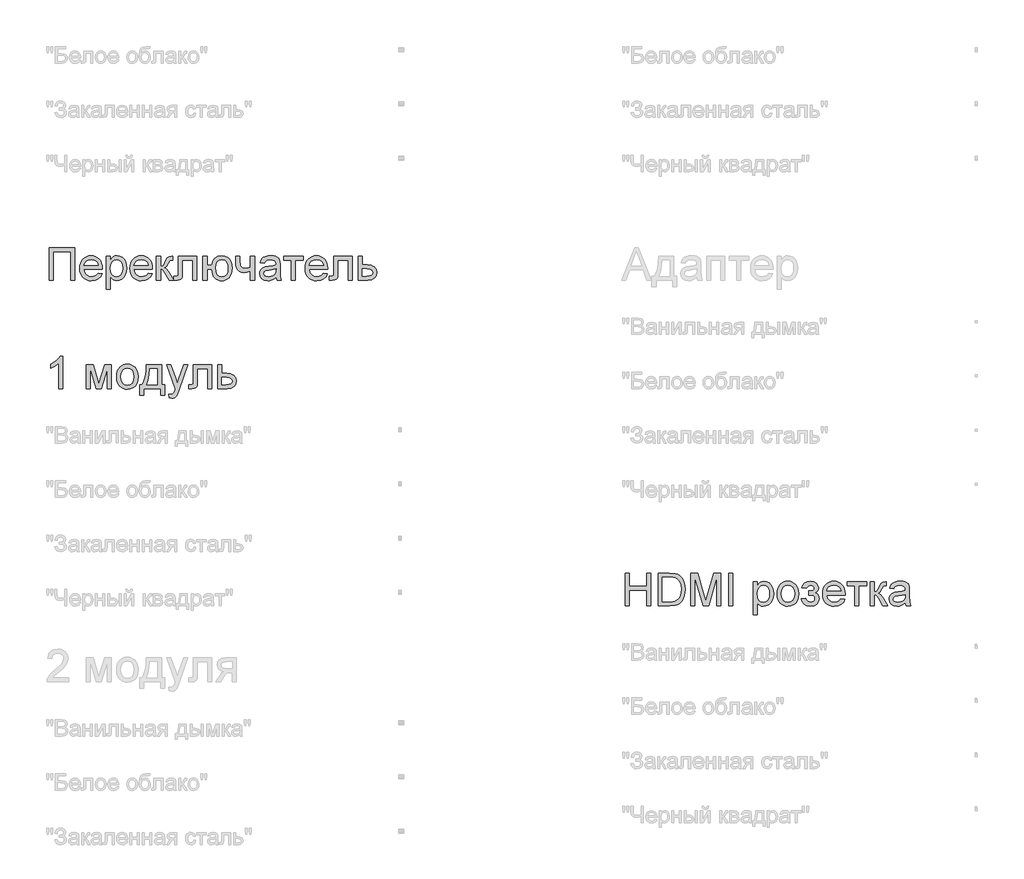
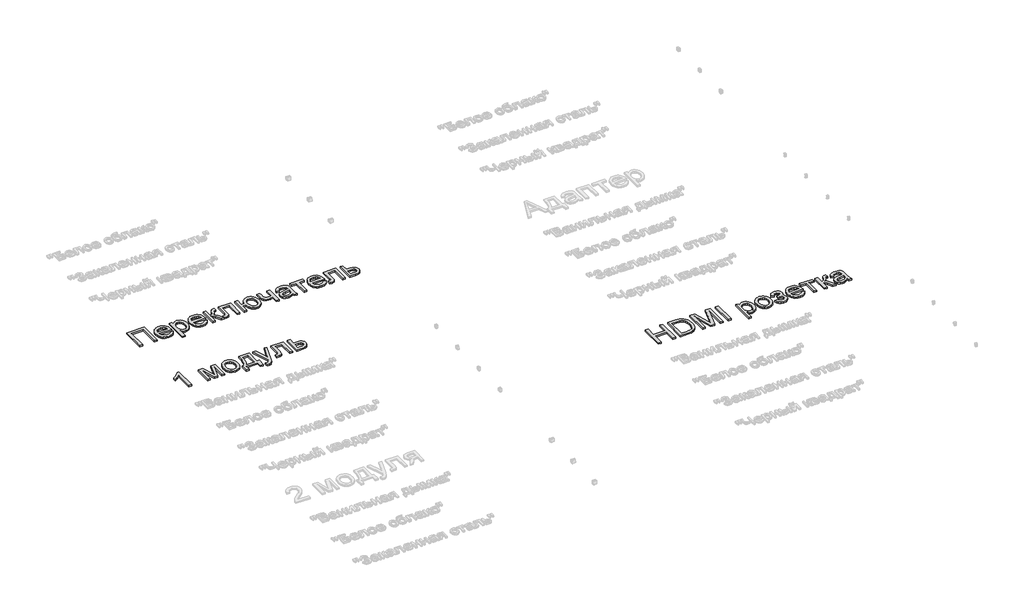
# One storey, part 56 of 168: 3 proxies.
"""IFC4 building model written with IfcOpenShell, lengths in millimetres."""

import ifcopenshell
import ifcopenshell.guid

model = None  # the IFC model being written
_history = None  # IfcOwnerHistory: only IFC2X3 demands one
_inside = {}  # id of a spatial element -> (the spatial element, [elements in it])
_under = {}  # id of a project, library or spatial element -> (it, [spatial elements below it])
_declared = {}  # id of a project -> (the project, [libraries it declares])
_typed = {}  # id of a type object -> (the type object, [elements of that type])
_made_of = {}  # id of a material, layer set ... -> (it, [elements and type objects made of it])


def new_model(schema):
    """Start an empty IFC model of exactly this schema.

    Asked for "IFC4X3", IfcOpenShell would pick the latest addendum, in which some entities
    have other attributes; the version numbers below select the first issue.
    IFC2X3 requires an IfcOwnerHistory on every rooted entity: one is made here for all.
    """
    global model, _history
    if schema == "IFC4X3":
        model = ifcopenshell.file(schema_version=(4, 3, 0, 0))
    else:
        model = ifcopenshell.file(schema=schema)
    _inside.clear()
    _under.clear()
    _declared.clear()
    _typed.clear()
    _made_of.clear()
    _history = None
    if model.schema == "IFC2X3":
        org = make("IfcOrganization", Name="unknown")
        user = make(
            "IfcPersonAndOrganization",
            ThePerson=make("IfcPerson", FamilyName="unknown"),
            TheOrganization=org,
        )
        app = make(
            "IfcApplication",
            ApplicationDeveloper=org,
            Version="unknown",
            ApplicationFullName="unknown",
            ApplicationIdentifier="unknown",
        )
        _history = make(
            "IfcOwnerHistory",
            OwningUser=user,
            OwningApplication=app,
            ChangeAction="ADDED",
            CreationDate=0,
        )
    return model


def make(cls, **values):
    """One entity of the class cls with the attributes given. An attribute that is None is left unset."""
    return model.create_entity(
        cls, **{name: value for name, value in values.items() if value is not None}
    )


def rooted(cls, **values):
    """An entity with a GlobalId (a new one), such as an element, a storey or a relation."""
    return make(cls, GlobalId=ifcopenshell.guid.new(), OwnerHistory=_history, **values)


def si_unit(unit_type, name, prefix=None):
    """IfcSIUnit, for example si_unit("LENGTHUNIT", "METRE", prefix="MILLI")."""
    return make("IfcSIUnit", UnitType=unit_type, Prefix=prefix, Name=name)


def assignment(units):
    """IfcUnitAssignment: the units of a project."""
    return None if units is None else make("IfcUnitAssignment", Units=units)


def point(xyz):
    """IfcCartesianPoint."""
    return None if xyz is None else make("IfcCartesianPoint", Coordinates=xyz)


def direction(xyz):
    """IfcDirection."""
    return None if xyz is None else make("IfcDirection", DirectionRatios=xyz)


def frame(location, z_axis=None, x_axis=None):
    """IfcAxis2Placement3D, a coordinate frame: its origin and axes. An axis left out is left unset."""
    return make(
        "IfcAxis2Placement3D",
        Location=point(location),
        Axis=direction(z_axis),
        RefDirection=direction(x_axis),
    )


def origin():
    """The frame at (0, 0, 0) with its axes left unset."""
    return frame((0.0, 0.0, 0.0))


def origin_with_axes():
    """The frame at (0, 0, 0) with the z axis (0, 0, 1) and the x axis (1, 0, 0) written out."""
    return frame((0.0, 0.0, 0.0), z_axis=(0.0, 0.0, 1.0), x_axis=(1.0, 0.0, 0.0))


def place(relative_to, where):
    """IfcLocalPlacement: puts the frame where relative to a parent placement (None: the world)."""
    return make(
        "IfcLocalPlacement", PlacementRelTo=relative_to, RelativePlacement=where
    )


def context(
    kind, dimensions, precision=None, world=None, true_north=None, identifier=None
):
    """IfcGeometricRepresentationContext, for example the 3D "Model" context."""
    return make(
        "IfcGeometricRepresentationContext",
        ContextIdentifier=identifier,
        ContextType=kind,
        CoordinateSpaceDimension=dimensions,
        Precision=precision,
        WorldCoordinateSystem=world,
        TrueNorth=true_north,
    )


def project(units=None, contexts=None):
    """IfcProject with its units and contexts."""
    return rooted(
        "IfcProject",
        Name="project",
        RepresentationContexts=contexts,
        UnitsInContext=assignment(units),
    )


def spatial(cls, under=None, at=None, **own):
    """A site, building, storey or space (cls), placed at a placement, below another one or the project."""
    s = rooted(cls, ObjectPlacement=at, **own)
    if under is not None:
        _under.setdefault(under.id(), (under, []))[1].append(s)
    return s


def polyline(points):
    """IfcPolyline through the points."""
    return make("IfcPolyline", Points=[point(p) for p in points])


def outline(outer, holes=None, kind="AREA"):
    """IfcArbitraryClosedProfileDef: a profile drawn as a closed curve; with holes, ...WithVoids."""
    if holes is None:
        return make("IfcArbitraryClosedProfileDef", ProfileType=kind, OuterCurve=outer)
    return make(
        "IfcArbitraryProfileDefWithVoids",
        ProfileType=kind,
        OuterCurve=outer,
        InnerCurves=holes,
    )


def extrude(swept, where, along, depth):
    """IfcExtrudedAreaSolid: the profile swept, set in the frame where, extruded along a direction by depth."""
    return make(
        "IfcExtrudedAreaSolid",
        SweptArea=swept,
        Position=where,
        ExtrudedDirection=direction(along),
        Depth=depth,
    )


def shape(context_of_items, identifier, shape_type, items):
    """IfcShapeRepresentation: the items that make up one representation, for example the "Body"."""
    return make(
        "IfcShapeRepresentation",
        ContextOfItems=context_of_items,
        RepresentationIdentifier=identifier,
        RepresentationType=shape_type,
        Items=items,
    )


def made_of(thing, what):
    """Note that an element or type object is made of a material, layer set ...; save() writes the relation."""
    if what is not None:
        _made_of.setdefault(what.id(), (what, []))[1].append(thing)
    return thing


def element(
    cls,
    number,
    at=None,
    inside=None,
    cuts=None,
    type_object=None,
    material=None,
    context=None,
    identifier="Body",
    shape_type=None,
    held_by="IfcProductDefinitionShape",
    body=None,
    shapes=None,
    **own,
):
    """One element of the class cls, such as IfcWall. Its Tag is "e" and its number.

    at: its placement. inside: the storey or other place that contains it. cuts: it is an
    opening in that element (IfcRelVoidsElement). A single representation is given by context,
    identifier, shape_type and body (its items); several are given by shapes. held_by: the class
    of the entity that holds the representations. save() writes the other relations.
    """
    e = rooted(cls, Tag="e%d" % number, ObjectPlacement=at, **own)
    if body is not None:
        shapes = [shape(context, identifier, shape_type, body)]
    if shapes is not None:
        e.Representation = make(held_by, Representations=shapes)
    if inside is not None:
        _inside.setdefault(inside.id(), (inside, []))[1].append(e)
    if cuts is not None:
        rooted(
            "IfcRelVoidsElement", RelatingBuildingElement=cuts, RelatedOpeningElement=e
        )
    if type_object is not None:
        _typed.setdefault(type_object.id(), (type_object, []))[1].append(e)
    return made_of(e, material)


def aggregate(whole, parts):
    """IfcRelAggregates: a whole, such as a stair, and the parts it consists of."""
    return rooted("IfcRelAggregates", RelatingObject=whole, RelatedObjects=parts)


def save(model, path):
    """Write the relations noted so far, then the file.

    IfcRelAggregates (storeys below a building ...), IfcRelContainedInSpatialStructure (elements
    in a storey), IfcRelDefinesByType, IfcRelAssociatesMaterial and IfcRelDeclares: one each for
    every whole, place, type object, material and project.
    """
    for whole, parts in _under.values():
        aggregate(whole, parts)
    for where, things in _inside.values():
        rooted(
            "IfcRelContainedInSpatialStructure",
            RelatedElements=things,
            RelatingStructure=where,
        )
    for kind, things in _typed.values():
        rooted("IfcRelDefinesByType", RelatedObjects=things, RelatingType=kind)
    for what, things in _made_of.values():
        rooted("IfcRelAssociatesMaterial", RelatedObjects=things, RelatingMaterial=what)
    for by, libraries in _declared.values():
        rooted("IfcRelDeclares", RelatingContext=by, RelatedDefinitions=libraries)
    model.write(path)


model = new_model("IFC4")

# Units and contexts
model_context = context("Model", 3, world=origin())
ifc_project = project(units=[si_unit("LENGTHUNIT", "METRE", prefix="MILLI")], contexts=[model_context])

# Site, building, storey
site = spatial("IfcSite", under=ifc_project)
building = spatial("IfcBuilding", under=site)
storey = spatial("IfcBuildingStorey", under=building, Name="Этаж 01", Elevation=0.0)

# Proxies
placement = place(None, origin())
element("IfcBuildingElementProxy", 1, Name="300 мм Arial 2", ObjectType="300 мм Arial 2", at=placement, inside=storey, context=model_context, shape_type="SweptSolid", body=[
    extrude(outline(polyline([(49099.0945017, -40265.4933673), (49334.5389786, -40265.4933673), (49334.5389786, -40566.8622977), (49296.8678623, -40566.8622977), (49296.8678623, -40303.1644836), (49136.765618, -40303.1644836), (49136.765618, -40566.8622977), (49099.0945017, -40566.8622977), (49099.0945017, -40265.4933673)])), origin_with_axes(), (0.0, 0.0, 1.0), 20.0),
    extrude(outline(polyline([(49550.7064389, -40500.9378442), (49587.6417913, -40505.6467337), (49574.3336601, -40533.4770067), (49553.0976719, -40554.2807335), (49524.4120733, -40567.2485738), (49488.7551109, -40571.5711873), (49465.3808087, -40569.7064854), (49444.5540892, -40564.1123798), (49426.2749526, -40554.7888705), (49410.5433988, -40541.7359575), (49397.8928567, -40525.3169242), (49388.8567552, -40505.8950541), (49383.4350943, -40483.4703472), (49381.627874, -40458.0428036), (49383.4534884, -40431.7530365), (49388.9303316, -40408.5810693), (49398.0584036, -40388.526902), (49410.8377044, -40371.5905347), (49426.5278715, -40358.1352507), (49444.3885423, -40348.5243336), (49464.419717, -40342.7577833), (49486.6213954, -40340.8355999), (49508.1080032, -40342.7531848), (49527.5390703, -40348.5059395), (49544.9145968, -40358.093864), (49560.2345826, -40371.5169583), (49572.7402712, -40388.4165374), (49581.6729059, -40408.4339165), (49587.0324867, -40431.5690955), (49588.8190136, -40457.8220744), (49588.5982844, -40467.9756174), (49419.2989903, -40467.9756174), (49425.8196986, -40496.1737724), (49440.9672398, -40516.9039228), (49462.8286273, -40529.6510339), (49489.4908749, -40533.900071), (49509.5404437, -40531.9319023), (49526.4262273, -40526.0273963), (49540.1482257, -40515.8186709), (49550.7064389, -40500.9378442)]), holes=[polyline([(49419.2989903, -40430.3045011), (49551.1478973, -40430.3045011), (49546.0527317, -40410.4020852), (49536.0647355, -40396.165052), (49514.1021804, -40382.9213001), (49486.4742426, -40378.5067162), (49461.0811879, -40382.0291863), (49440.084323, -40392.5965966), (49425.4886048, -40409.068513), (49419.2989903, -40430.3045011)])]), origin_with_axes(), (0.0, 0.0, 1.0), 20.0),
    extrude(outline(polyline([(49626.4901299, -40651.6223094), (49626.4901299, -40345.5444894), (49664.1612462, -40345.5444894), (49664.1612462, -40382.4798418), (49676.4485049, -40364.2604859), (49690.2072915, -40351.2466604), (49706.2469465, -40343.438365), (49725.3768102, -40340.8355999), (49750.8526384, -40344.4776316), (49773.1278932, -40355.4037269), (49791.2644756, -40372.9516981), (49804.3242864, -40396.4593576), (49812.2153552, -40424.2160541), (49814.8457115, -40454.5111364), (49811.8750644, -40486.7284021), (49802.963123, -40515.5427594), (49788.394996, -40539.4918773), (49768.4557919, -40557.1134249), (49745.2332409, -40567.9567467), (49720.8150735, -40571.5711873), (49703.4970286, -40569.1523632), (49688.0367877, -40561.8958908), (49674.802233, -40550.9422044), (49664.1612462, -40537.4317381), (49664.1612462, -40651.6223094), (49626.4901299, -40651.6223094)]), holes=[polyline([(49664.1612462, -40457.9692272), (49668.2355393, -40491.7407943), (49680.4584186, -40515.3588184), (49698.4938334, -40529.2647578), (49720.0057331, -40533.900071), (49741.8671207, -40529.0992109), (49760.362388, -40514.6966308), (49772.9715434, -40490.214084), (49777.1745952, -40455.173324), (49773.0727109, -40421.5856978), (49760.7670582, -40397.63658), (49742.7592345, -40383.2891821), (49721.5508375, -40378.5067162), (49700.259667, -40383.5926848), (49681.5620646, -40398.8505905), (49668.5114508, -40423.8021869), (49664.1612462, -40457.9692272)])]), origin_with_axes(), (0.0, 0.0, 1.0), 20.0),
    extrude(outline(polyline([(50012.1776137, -40500.9378442), (50049.112966, -40505.6467337), (50035.8048348, -40533.4770067), (50014.5688467, -40554.2807335), (49985.8832481, -40567.2485738), (49950.2262857, -40571.5711873), (49926.8519834, -40569.7064854), (49906.025264, -40564.1123798), (49887.7461273, -40554.7888705), (49872.0145735, -40541.7359575), (49859.3640314, -40525.3169242), (49850.3279299, -40505.8950541), (49844.906269, -40483.4703472), (49843.0990487, -40458.0428036), (49844.9246631, -40431.7530365), (49850.4015063, -40408.5810693), (49859.5295783, -40388.526902), (49872.3088791, -40371.5905347), (49887.9990462, -40358.1352507), (49905.8597171, -40348.5243336), (49925.8908917, -40342.7577833), (49948.0925701, -40340.8355999), (49969.5791779, -40342.7531848), (49989.010245, -40348.5059395), (50006.3857715, -40358.093864), (50021.7057574, -40371.5169583), (50034.2114459, -40388.4165374), (50043.1440806, -40408.4339165), (50048.5036614, -40431.5690955), (50050.2901884, -40457.8220744), (50050.0694592, -40467.9756174), (49880.770165, -40467.9756174), (49887.2908734, -40496.1737724), (49902.4384145, -40516.9039228), (49924.2998021, -40529.6510339), (49950.9620497, -40533.900071), (49971.0116184, -40531.9319023), (49987.897402, -40526.0273963), (50001.6194004, -40515.8186709), (50012.1776137, -40500.9378442)]), holes=[polyline([(49880.770165, -40430.3045011), (50012.6190721, -40430.3045011), (50007.5239064, -40410.4020852), (49997.5359103, -40396.165052), (49975.5733552, -40382.9213001), (49947.9454173, -40378.5067162), (49922.5523626, -40382.0291863), (49901.5554977, -40392.5965966), (49886.9597796, -40409.068513), (49880.770165, -40430.3045011)])]), origin_with_axes(), (0.0, 0.0, 1.0), 20.0),
    extrude(outline(polyline([(50290.4435548, -40345.5444894), (50459.9635782, -40345.5444894), (50459.9635782, -40566.6415685), (50422.2924619, -40566.6415685), (50422.2924619, -40383.2156057), (50328.1146711, -40383.2156057), (50328.1146711, -40488.7977384), (50325.5762854, -40537.5053145), (50320.8214106, -40548.5325773), (50311.6335578, -40558.069918), (50297.6908301, -40564.6642028), (50278.671331, -40566.8622977), (50248.063549, -40564.9493114), (50248.063549, -40529.1911814), (50264.9125444, -40529.1911814), (50281.9454807, -40526.8735249), (50288.7512977, -40519.515885), (50290.4435548, -40486.6640228), (50290.4435548, -40345.5444894)])), origin_with_axes(), (0.0, 0.0, 1.0), 20.0),
    extrude(outline(polyline([(50087.9613047, -40345.5444894), (50125.632421, -40345.5444894), (50125.632421, -40439.7222802), (50140.9547061, -40438.030023), (50150.8691259, -40432.9532515), (50159.6431115, -40419.7094997), (50171.544094, -40393.5163016), (50188.7241832, -40359.4872171), (50203.8809214, -40348.413969), (50231.4352828, -40345.5444894), (50238.6457699, -40345.5444894), (50238.6457699, -40383.4363349), (50228.4922269, -40383.2156057), (50210.0981271, -40387.1887313), (50197.1486809, -40411.9839778), (50181.9551545, -40438.8025752), (50160.6547869, -40451.9359624), (50172.5925577, -40457.2380617), (50184.4199638, -40466.5960599), (50207.7436823, -40497.4797534), (50248.063549, -40566.8622977), (50205.2420848, -40566.8622977), (50165.7315585, -40498.9512814), (50145.8659307, -40470.2196976), (50136.5769104, -40465.0049703), (50125.632421, -40463.2667279), (50125.632421, -40566.8622977), (50087.9613047, -40566.8622977), (50087.9613047, -40345.5444894)])), origin_with_axes(), (0.0, 0.0, 1.0), 20.0),
    extrude(outline(polyline([(50516.4702527, -40345.5444894), (50554.141369, -40345.5444894), (50554.141369, -40430.3045011), (50596.5213748, -40430.3045011), (50606.2978388, -40391.8976208), (50614.8212048, -40376.5569416), (50625.7679934, -40363.7914364), (50638.8301035, -40353.7482579), (50653.6994339, -40346.574559), (50688.8597556, -40340.8355999), (50718.4098769, -40344.2109172), (50740.9886343, -40354.3368691), (50758.4078468, -40370.3857212), (50772.4793331, -40391.5297388), (50781.7775505, -40419.3416177), (50784.8769564, -40455.3940532), (50783.2743704, -40482.2494388), (50778.4666126, -40505.6467337), (50770.4536829, -40525.5859379), (50759.2355813, -40542.0670513), (50745.2721603, -40554.9751108), (50729.0232724, -40564.1951533), (50710.4889177, -40569.7271788), (50689.669096, -40571.5711873), (50670.26562, -40569.8421419), (50652.8900935, -40564.6550058), (50637.5425166, -40556.0097789), (50624.2228891, -40543.9064612), (50613.2623049, -40528.7865112), (50604.9918578, -40511.0913873), (50596.5213748, -40467.9756174), (50554.141369, -40467.9756174), (50554.141369, -40566.8622977), (50516.4702527, -40566.8622977), (50516.4702527, -40345.5444894)]), holes=[polyline([(50691.2877768, -40378.5067162), (50667.2742795, -40383.3811526), (50649.2388647, -40398.0044619), (50637.9540845, -40421.4201509), (50634.1924911, -40452.6717264), (50637.9816757, -40489.0828469), (50649.3492293, -40514.2919606), (50667.0627474, -40528.9980434), (50689.8898252, -40533.900071), (50712.7812824, -40529.3659254), (50731.1293969, -40515.7634886), (50743.1867293, -40492.0626911), (50747.20584, -40457.2334632), (50743.7293552, -40422.7905114), (50733.2999006, -40398.1884029), (50715.8439, -40383.4271379), (50691.2877768, -40378.5067162)])]), origin_with_axes(), (0.0, 0.0, 1.0), 20.0),
    extrude(outline(polyline([(50817.8391831, -40345.5444894), (50855.5102994, -40345.5444894), (50855.5102994, -40387.9980717), (50858.56372, -40427.8029036), (50863.7600532, -40439.3727923), (50873.2422116, -40449.3607885), (50886.3388106, -40456.2585759), (50902.3784656, -40458.5578384), (50925.4262726, -40455.7067529), (50954.3969797, -40447.1534965), (50954.3969797, -40345.5444894), (50992.068096, -40345.5444894), (50992.068096, -40566.8622977), (50954.3969797, -40566.8622977), (50954.3969797, -40483.2795084), (50922.2440934, -40492.9915931), (50892.2984989, -40496.2289547), (50869.5174064, -40492.8536374), (50849.5873993, -40482.7276854), (50834.0535821, -40467.708903), (50824.461059, -40449.6550941), (50819.4946521, -40429.1088846), (50817.8391831, -40406.6129006), (50817.8391831, -40345.5444894)])), origin_with_axes(), (0.0, 0.0, 1.0), 20.0),
    extrude(outline(polyline([(51189.8414566, -40538.6089605), (51171.84283, -40554.0416102), (51153.3107745, -40564.139971), (51133.8222258, -40569.7133832), (51112.9541197, -40571.5711873), (51081.4726179, -40567.101421), (51058.250067, -40553.6921223), (51043.9302603, -40533.3298539), (51039.1569914, -40508.0011785), (51040.9596132, -40492.3845878), (51046.3674785, -40478.2027369), (51054.7092028, -40466.0626311), (51065.3134013, -40456.5712756), (51091.6905403, -40444.2104405), (51124.2848851, -40438.5450578), (51162.80213, -40432.5853695), (51189.6207274, -40425.5956116), (51189.8414566, -40417.2079021), (51187.2478886, -40400.3956949), (51179.4671844, -40389.3960233), (51162.066366, -40381.229043), (51137.8229425, -40378.5067162), (51115.3821408, -40380.318535), (51099.7103678, -40385.7539915), (51089.0233959, -40395.806367), (51081.5369973, -40411.468943), (51043.865881, -40406.7600534), (51050.4049834, -40386.1586617), (51060.1630533, -40369.9718539), (51074.0505987, -40357.5926248), (51092.9781273, -40348.413969), (51116.1271019, -40342.7301922), (51142.6789849, -40340.8355999), (51168.145616, -40342.509463), (51188.3331405, -40347.5310522), (51203.554258, -40355.0818302), (51214.1216683, -40364.3432594), (51221.1298203, -40375.7935865), (51225.673163, -40389.9110581), (51227.512573, -40422.8732848), (51227.512573, -40469.741451), (51229.4255593, -40535.1876579), (51236.930352, -40566.8622977), (51199.2592357, -40566.8622977), (51189.8414566, -40538.6089605)]), holes=[polyline([(51189.8414566, -40463.2667279), (51129.067351, -40474.8182225), (51096.6569473, -40480.9250637), (51081.9784557, -40490.8578775), (51076.8281077, -40505.3524281), (51079.6332079, -40516.5544349), (51088.0485086, -40525.7330907), (51101.8900686, -40531.8583259), (51120.9739471, -40533.900071), (51141.2074569, -40531.6467937), (51159.0865218, -40524.8869621), (51173.5810725, -40514.9265571), (51183.6610391, -40503.0715598), (51188.1308054, -40490.8578775), (51189.6207274, -40473.9353058), (51189.8414566, -40463.2667279)])]), origin_with_axes(), (0.0, 0.0, 1.0), 20.0),
    extrude(outline(polyline([(51260.4747997, -40345.5444894), (51439.4126022, -40345.5444894), (51439.4126022, -40383.2156057), (51368.7792591, -40383.2156057), (51368.7792591, -40566.8622977), (51331.1081428, -40566.8622977), (51331.1081428, -40383.2156057), (51260.4747997, -40383.2156057), (51260.4747997, -40345.5444894)])), origin_with_axes(), (0.0, 0.0, 1.0), 20.0),
    extrude(outline(polyline([(51627.3267253, -40500.9378442), (51664.2620776, -40505.6467337), (51650.9539465, -40533.4770067), (51629.7179583, -40554.2807335), (51601.0323597, -40567.2485738), (51565.3753973, -40571.5711873), (51542.0010951, -40569.7064854), (51521.1743756, -40564.1123798), (51502.895239, -40554.7888705), (51487.1636851, -40541.7359575), (51474.513143, -40525.3169242), (51465.4770415, -40505.8950541), (51460.0553806, -40483.4703472), (51458.2481603, -40458.0428036), (51460.0737747, -40431.7530365), (51465.5506179, -40408.5810693), (51474.6786899, -40388.526902), (51487.4579907, -40371.5905347), (51503.1481578, -40358.1352507), (51521.0088287, -40348.5243336), (51541.0400033, -40342.7577833), (51563.2416818, -40340.8355999), (51584.7282895, -40342.7531848), (51604.1593567, -40348.5059395), (51621.5348831, -40358.093864), (51636.854869, -40371.5169583), (51649.3605576, -40388.4165374), (51658.2931923, -40408.4339165), (51663.6527731, -40431.5690955), (51665.4393, -40457.8220744), (51665.2185708, -40467.9756174), (51495.9192766, -40467.9756174), (51502.439985, -40496.1737724), (51517.5875261, -40516.9039228), (51539.4489137, -40529.6510339), (51566.1111613, -40533.900071), (51586.1607301, -40531.9319023), (51603.0465136, -40526.0273963), (51616.768512, -40515.8186709), (51627.3267253, -40500.9378442)]), holes=[polyline([(51495.9192766, -40430.3045011), (51627.7681837, -40430.3045011), (51622.6730181, -40410.4020852), (51612.6850219, -40396.165052), (51590.7224668, -40382.9213001), (51563.094529, -40378.5067162), (51537.7014742, -40382.0291863), (51516.7046094, -40392.5965966), (51502.1088912, -40409.068513), (51495.9192766, -40430.3045011)])]), origin_with_axes(), (0.0, 0.0, 1.0), 20.0),
    extrude(outline(polyline([(51721.9459745, -40345.5444894), (51891.4659978, -40345.5444894), (51891.4659978, -40566.6415685), (51853.7948815, -40566.6415685), (51853.7948815, -40383.2156057), (51759.6170908, -40383.2156057), (51759.6170908, -40488.7977384), (51757.078705, -40537.5053145), (51752.3238302, -40548.5325773), (51743.1359774, -40558.069918), (51729.1932498, -40564.6642028), (51710.1737506, -40566.8622977), (51679.5659686, -40564.9493114), (51679.5659686, -40529.1911814), (51696.414964, -40529.1911814), (51713.4479004, -40526.8735249), (51720.2537173, -40519.515885), (51721.9459745, -40486.6640228), (51721.9459745, -40345.5444894)])), origin_with_axes(), (0.0, 0.0, 1.0), 20.0),
    extrude(outline(polyline([(51947.9726723, -40345.5444894), (51985.6437886, -40345.5444894), (51985.6437886, -40425.5956116), (52029.053864, -40425.5956116), (52066.6881922, -40430.3136982), (52081.8357333, -40436.2113064), (52094.5368592, -40444.4679579), (52104.5800377, -40454.7985442), (52111.7537366, -40466.9179567), (52117.4926957, -40496.5232603), (52112.6090622, -40523.4798135), (52097.9581617, -40546.2241178), (52086.7262646, -40555.2533215), (52072.565107, -40561.7027528), (52035.4550108, -40566.8622977), (51947.9726723, -40566.8622977), (51947.9726723, -40345.5444894)]), holes=[polyline([(51985.6437886, -40529.1911814), (52020.8133074, -40529.1911814), (52048.1009543, -40527.2138157), (52066.2467338, -40521.2817185), (52076.427868, -40511.1557666), (52079.8215794, -40496.5968367), (52077.3107848, -40484.2911839), (52069.7784009, -40473.420271), (52053.6375784, -40465.8051137), (52025.3014677, -40463.2667279), (51985.6437886, -40463.2667279), (51985.6437886, -40529.1911814)])]), origin_with_axes(), (0.0, 0.0, 1.0), 20.0),
])
element("IfcBuildingElementProxy", 2, Name="300 мм Arial 2", ObjectType="300 мм Arial 2", at=placement, inside=storey, context=model_context, shape_type="SweptSolid", body=[
    extrude(outline(polyline([(49226.2345192, -41566.8622977), (49188.5634029, -41566.8622977), (49188.5634029, -41332.006432), (49152.8788494, -41357.4270779), (49113.2211703, -41376.446577), (49113.2211703, -41340.8355999), (49142.8080797, -41324.7407626), (49168.4402577, -41305.5925048), (49188.6461763, -41285.2302363), (49201.9543075, -41265.4933673), (49226.2345192, -41265.4933673), (49226.2345192, -41566.8622977)])), origin_with_axes(), (0.0, 0.0, 1.0), 20.0),
    extrude(outline(polyline([(49442.843438, -41345.5444894), (49507.6642455, -41345.5444894), (49557.6226204, -41522.7164583), (49611.4805445, -41345.5444894), (49673.5790253, -41345.5444894), (49673.5790253, -41566.8622977), (49635.907909, -41566.8622977), (49635.907909, -41388.6602593), (49581.7556793, -41566.8622977), (49532.3123392, -41566.8622977), (49480.5145543, -41380.125397), (49480.5145543, -41566.8622977), (49442.843438, -41566.8622977), (49442.843438, -41345.5444894)])), origin_with_axes(), (0.0, 0.0, 1.0), 20.0),
    extrude(outline(polyline([(49720.6679207, -41456.2033936), (49722.7050673, -41427.5407876), (49728.8165069, -41402.8421102), (49739.0022396, -41382.1073612), (49753.2622655, -41365.3365408), (49767.6188603, -41354.6173791), (49783.4653773, -41346.9608351), (49800.8018163, -41342.3669087), (49819.6281774, -41340.8355999), (49840.4112109, -41342.7003018), (49859.203083, -41348.2944073), (49876.0037939, -41357.6179167), (49890.8133435, -41370.6708297), (49902.9005663, -41387.0116881), (49911.5342969, -41406.1990334), (49916.7145352, -41428.2328656), (49918.4412813, -41453.1131848), (49915.3878608, -41491.1705772), (49906.2275991, -41520.1412843), (49891.2272107, -41541.837125), (49870.6534101, -41558.069918), (49846.2168486, -41568.19587), (49819.6281774, -41571.5711873), (49798.5416413, -41569.7133832), (49779.5750252, -41564.139971), (49762.7283291, -41554.8509506), (49748.001553, -41541.8463221), (49736.0430888, -41525.3468146), (49727.5013288, -41505.5731573), (49722.3762727, -41482.5253503), (49720.6679207, -41456.2033936)]), holes=[polyline([(49758.339037, -41456.1298172), (49762.6984387, -41490.2232811), (49775.7766436, -41514.5126898), (49795.4583303, -41529.0532257), (49819.6281774, -41533.900071), (49843.6876599, -41529.0256345), (49863.3325584, -41514.4023252), (49876.4107634, -41489.7910197), (49880.770165, -41454.9525948), (49876.3831722, -41421.8524123), (49863.2221938, -41397.8940973), (49843.5497041, -41383.3535615), (49819.6281774, -41378.5067162), (49795.4583303, -41383.3351674), (49775.7766436, -41397.820521), (49762.6984387, -41422.0547474), (49758.339037, -41456.1298172)])]), origin_with_axes(), (0.0, 0.0, 1.0), 20.0),
    extrude(outline(polyline([(49993.7835139, -41345.5444894), (50135.0502001, -41345.5444894), (50135.0502001, -41529.1911814), (50163.3035373, -41529.1911814), (50163.3035373, -41628.0778617), (50125.632421, -41628.0778617), (50125.632421, -41566.8622977), (49970.2390662, -41566.8622977), (49970.2390662, -41628.0778617), (49932.5679499, -41628.0778617), (49932.5679499, -41529.1911814), (49956.1123976, -41529.1911814), (49973.2281074, -41498.2615027), (49985.2118634, -41457.3438278), (49992.0636656, -41406.4381567), (49993.7835139, -41345.5444894)]), holes=[polyline([(50026.7457407, -41383.2156057), (50023.6555319, -41429.3388109), (50017.9165728, -41469.0424752), (50009.5288633, -41502.3265987), (49998.4924035, -41529.1911814), (50097.3790838, -41529.1911814), (50097.3790838, -41383.2156057), (50026.7457407, -41383.2156057)])]), origin_with_axes(), (0.0, 0.0, 1.0), 20.0),
    extrude(outline(polyline([(50205.6835431, -41651.6223094), (50200.9746536, -41615.3491447), (50220.1045174, -41618.6600827), (50237.9835823, -41614.5030161), (50248.9464658, -41602.9147333), (50259.2471616, -41575.1764308), (50262.1902176, -41566.0529573), (50182.1390955, -41345.5444894), (50221.8703509, -41345.5444894), (50264.3239332, -41468.4170758), (50279.1127894, -41517.5661104), (50293.9016456, -41474.1560349), (50337.5324502, -41345.5444894), (50376.9694001, -41345.5444894), (50299.9349103, -41572.1597985), (50279.9221298, -41621.308833), (50269.6766162, -41636.9990001), (50258.0699393, -41647.8699131), (50244.5870641, -41654.2158775), (50228.712956, -41656.331199), (50205.6835431, -41651.6223094)])), origin_with_axes(), (0.0, 0.0, 1.0), 20.0),
    extrude(outline(polyline([(50427.0013514, -41345.5444894), (50596.5213748, -41345.5444894), (50596.5213748, -41566.6415685), (50558.8502585, -41566.6415685), (50558.8502585, -41383.2156057), (50464.6724678, -41383.2156057), (50464.6724678, -41488.7977384), (50462.134082, -41537.5053145), (50457.3792072, -41548.5325773), (50448.1913544, -41558.069918), (50434.2486268, -41564.6642028), (50415.2291276, -41566.8622977), (50384.6213456, -41564.9493114), (50384.6213456, -41529.1911814), (50401.470341, -41529.1911814), (50418.5032774, -41526.8735249), (50425.3090943, -41519.515885), (50427.0013514, -41486.6640228), (50427.0013514, -41345.5444894)])), origin_with_axes(), (0.0, 0.0, 1.0), 20.0),
    extrude(outline(polyline([(50653.0280493, -41345.5444894), (50690.6991656, -41345.5444894), (50690.6991656, -41425.5956116), (50734.109241, -41425.5956116), (50771.7435691, -41430.3136982), (50786.8911103, -41436.2113064), (50799.5922362, -41444.4679579), (50809.6354146, -41454.7985442), (50816.8091135, -41466.9179567), (50822.5480727, -41496.5232603), (50817.6644392, -41523.4798135), (50803.0135387, -41546.2241178), (50791.7816416, -41555.2533215), (50777.620484, -41561.7027528), (50740.5103877, -41566.8622977), (50653.0280493, -41566.8622977), (50653.0280493, -41345.5444894)]), holes=[polyline([(50690.6991656, -41529.1911814), (50725.8686843, -41529.1911814), (50753.1563313, -41527.2138157), (50771.3021107, -41521.2817185), (50781.483245, -41511.1557666), (50784.8769564, -41496.5968367), (50782.3661617, -41484.2911839), (50774.8337779, -41473.420271), (50758.6929553, -41465.8051137), (50730.3568447, -41463.2667279), (50690.6991656, -41463.2667279), (50690.6991656, -41529.1911814)])]), origin_with_axes(), (0.0, 0.0, 1.0), 20.0),
])
element("IfcBuildingElementProxy", 3, Name="300 мм Arial 2", ObjectType="300 мм Arial 2", at=placement, inside=storey, context=model_context, shape_type="SweptSolid", body=[
    extrude(outline(polyline([(54408.7231967, -43566.8622977), (54408.7231967, -43265.4933673), (54446.394313, -43265.4933673), (54446.394313, -43387.9244953), (54606.4965573, -43387.9244953), (54606.4965573, -43265.4933673), (54644.1676736, -43265.4933673), (54644.1676736, -43566.8622977), (54606.4965573, -43566.8622977), (54606.4965573, -43425.5956116), (54446.394313, -43425.5956116), (54446.394313, -43566.8622977), (54408.7231967, -43566.8622977)])), origin_with_axes(), (0.0, 0.0, 1.0), 20.0),
    extrude(outline(polyline([(54710.0921271, -43566.8622977), (54710.0921271, -43265.4933673), (54814.055579, -43265.4933673), (54867.8399267, -43269.8343748), (54891.8626209, -43278.2036902), (54912.1329189, -43291.3922597), (54932.9734339, -43314.3480962), (54947.8174724, -43342.8957391), (54956.7018226, -43376.4833652), (54959.6632727, -43414.5591517), (54957.6583158, -43446.9051762), (54951.6434452, -43475.3700455), (54942.4831835, -43499.604272), (54931.0420534, -43519.2583676), (54917.871878, -43534.7737907), (54903.5244802, -43546.5919998), (54887.0525639, -43555.3567883), (54867.5088329, -43561.7119498), (54819.0587741, -43566.8622977), (54710.0921271, -43566.8622977)]), holes=[polyline([(54747.7632434, -43529.1911814), (54814.423461, -43529.1911814), (54841.9962165, -43527.830018), (54862.9103079, -43523.7465279), (54878.6924455, -43517.1798343), (54890.8693396, -43508.3690605), (54903.9567415, -43492.0626911), (54913.7883879, -43470.9554616), (54919.9412142, -43444.9554016), (54921.9921564, -43413.9705405), (54917.9730456, -43372.9149099), (54905.9157132, -43342.6014335), (54888.1010275, -43321.7793125), (54866.8098571, -43309.1977483), (54845.1416076, -43304.6727998), (54813.3933914, -43303.1644836), (54747.7632434, -43303.1644836), (54747.7632434, -43529.1911814)])]), origin_with_axes(), (0.0, 0.0, 1.0), 20.0),
    extrude(outline(polyline([(55011.4610576, -43566.8622977), (55011.4610576, -43265.4933673), (55076.2818651, -43265.4933673), (55137.9388875, -43477.9084313), (55150.373299, -43522.2749999), (55163.83778, -43474.2296113), (55224.4647328, -43265.4933673), (55289.2855403, -43265.4933673), (55289.2855403, -43566.8622977), (55251.614424, -43566.8622977), (55251.614424, -43303.1644836), (55175.9043094, -43566.8622977), (55124.8422885, -43566.8622977), (55049.1321739, -43303.1644836), (55049.1321739, -43566.8622977), (55011.4610576, -43566.8622977)])), origin_with_axes(), (0.0, 0.0, 1.0), 20.0),
    extrude(outline(polyline([(55359.9188834, -43566.8622977), (55359.9188834, -43265.4933673), (55397.5899997, -43265.4933673), (55397.5899997, -43566.8622977), (55359.9188834, -43566.8622977)])), origin_with_axes(), (0.0, 0.0, 1.0), 20.0),
    extrude(outline(polyline([(55585.9455812, -43651.6223094), (55585.9455812, -43345.5444894), (55623.6166976, -43345.5444894), (55623.6166976, -43382.4798418), (55635.9039562, -43364.2604859), (55649.6627428, -43351.2466604), (55665.7023978, -43343.438365), (55684.8322615, -43340.8355999), (55710.3080897, -43344.4776316), (55732.5833445, -43355.4037269), (55750.7199269, -43372.9516981), (55763.7797377, -43396.4593576), (55771.6708065, -43424.2160541), (55774.3011628, -43454.5111364), (55771.3305157, -43486.7284021), (55762.4185743, -43515.5427594), (55747.8504473, -43539.4918773), (55727.9112432, -43557.1134249), (55704.6886922, -43567.9567467), (55680.2705248, -43571.5711873), (55662.9524799, -43569.1523632), (55647.492239, -43561.8958908), (55634.2576843, -43550.9422044), (55623.6166976, -43537.4317381), (55623.6166976, -43651.6223094), (55585.9455812, -43651.6223094)]), holes=[polyline([(55623.6166976, -43457.9692272), (55627.6909906, -43491.7407943), (55639.9138699, -43515.3588184), (55657.9492848, -43529.2647578), (55679.4611844, -43533.900071), (55701.322572, -43529.0992109), (55719.8178393, -43514.6966308), (55732.4269947, -43490.214084), (55736.6300465, -43455.173324), (55732.5281622, -43421.5856978), (55720.2225095, -43397.63658), (55702.2146858, -43383.2891821), (55681.0062888, -43378.5067162), (55659.7151183, -43383.5926848), (55641.0175159, -43398.8505905), (55627.9669021, -43423.8021869), (55623.6166976, -43457.9692272)])]), origin_with_axes(), (0.0, 0.0, 1.0), 20.0),
    extrude(outline(polyline([(55807.2633895, -43456.2033936), (55809.3005361, -43427.5407876), (55815.4119757, -43402.8421102), (55825.5977085, -43382.1073612), (55839.8577343, -43365.3365408), (55854.2143292, -43354.6173791), (55870.0608461, -43346.9608351), (55887.3972851, -43342.3669087), (55906.2236462, -43340.8355999), (55927.0066797, -43342.7003018), (55945.7985519, -43348.2944073), (55962.5992627, -43357.6179167), (55977.4088123, -43370.6708297), (55989.4960351, -43387.0116881), (55998.1297657, -43406.1990334), (56003.310004, -43428.2328656), (56005.0367502, -43453.1131848), (56001.9833296, -43491.1705772), (55992.8230679, -43520.1412843), (55977.8226796, -43541.837125), (55957.248879, -43558.069918), (55932.8123174, -43568.19587), (55906.2236462, -43571.5711873), (55885.1371101, -43569.7133832), (55866.170494, -43564.139971), (55849.3237979, -43554.8509506), (55834.5970218, -43541.8463221), (55822.6385577, -43525.3468146), (55814.0967976, -43505.5731573), (55808.9717416, -43482.5253503), (55807.2633895, -43456.2033936)]), holes=[polyline([(55844.9345059, -43456.1298172), (55849.2939075, -43490.2232811), (55862.3721124, -43514.5126898), (55882.0537992, -43529.0532257), (55906.2236462, -43533.900071), (55930.2831287, -43529.0256345), (55949.9280273, -43514.4023252), (55963.0062322, -43489.7910197), (55967.3656338, -43454.9525948), (55962.9786411, -43421.8524123), (55949.8176627, -43397.8940973), (55930.145173, -43383.3535615), (55906.2236462, -43378.5067162), (55882.0537992, -43383.3351674), (55862.3721124, -43397.820521), (55849.2939075, -43422.0547474), (55844.9345059, -43456.1298172)])]), origin_with_axes(), (0.0, 0.0, 1.0), 20.0),
    extrude(outline(polyline([(56099.2145409, -43467.9756174), (56099.2145409, -43430.3045011), (56128.9394061, -43428.8329731), (56143.9489915, -43420.9970866), (56149.2464923, -43413.6486438), (56151.0123258, -43404.6263379), (56148.648684, -43393.9117748), (56141.5577586, -43385.6068387), (56130.7328309, -43380.2817468), (56117.1671823, -43378.5067162), (56103.4543809, -43380.2725498), (56091.9672656, -43385.5700505), (56082.7058364, -43394.3992184), (56075.6700932, -43406.7600534), (56033.2900874, -43402.0511639), (56044.5288823, -43375.2693546), (56061.617001, -43356.1394909), (56084.5544434, -43344.6615726), (56113.3412095, -43340.8355999), (56144.8319083, -43345.4985042), (56168.6706616, -43359.4872171), (56183.680247, -43379.950653), (56188.6834421, -43404.0377267), (56186.903813, -43416.3985617), (56181.5649255, -43427.4350216), (56172.6667798, -43437.1471062), (56160.2093757, -43445.5348157), (56174.7499116, -43456.0010585), (56185.1149868, -43469.005687), (56191.3229955, -43484.5854895), (56193.3923317, -43502.7772542), (56188.1408162, -43530.5063596), (56172.3862698, -43552.4781117), (56147.1955501, -43566.7979184), (56113.6355151, -43571.5711873), (56080.8112441, -43567.1566033), (56055.6941009, -43553.9128515), (56038.2840855, -43531.8399318), (56028.5811978, -43500.9378442), (56070.9612037, -43496.2289547), (56077.3071681, -43512.1582451), (56087.9573519, -43524.0408335), (56101.6793503, -43531.4352616), (56117.2407587, -43533.900071), (56132.3974969, -43531.5364291), (56144.7583319, -43524.4455037), (56152.9804945, -43513.6757583), (56155.7212154, -43500.2756566), (56154.0197611, -43489.662261), (56148.9153985, -43480.4836053), (56134.4208479, -43469.8886038), (56106.5721808, -43467.7548882), (56099.2145409, -43467.9756174)])), origin_with_axes(), (0.0, 0.0, 1.0), 20.0),
    extrude(outline(polyline([(56395.4331234, -43500.9378442), (56432.3684757, -43505.6467337), (56419.0603446, -43533.4770067), (56397.8243564, -43554.2807335), (56369.1387578, -43567.2485738), (56333.4817954, -43571.5711873), (56310.1074932, -43569.7064854), (56289.2807737, -43564.1123798), (56271.0016371, -43554.7888705), (56255.2700833, -43541.7359575), (56242.6195412, -43525.3169242), (56233.5834397, -43505.8950541), (56228.1617788, -43483.4703472), (56226.3545584, -43458.0428036), (56228.1801729, -43431.7530365), (56233.6570161, -43408.5810693), (56242.7850881, -43388.526902), (56255.5643889, -43371.5905347), (56271.254556, -43358.1352507), (56289.1152268, -43348.5243336), (56309.1464015, -43342.7577833), (56331.3480799, -43340.8355999), (56352.8346877, -43342.7531848), (56372.2657548, -43348.5059395), (56389.6412813, -43358.093864), (56404.9612671, -43371.5169583), (56417.4669557, -43388.4165374), (56426.3995904, -43408.4339165), (56431.7591712, -43431.5690955), (56433.5456981, -43457.8220744), (56433.3249689, -43467.9756174), (56264.0256748, -43467.9756174), (56270.5463831, -43496.1737724), (56285.6939243, -43516.9039228), (56307.5553118, -43529.6510339), (56334.2175594, -43533.900071), (56354.2671282, -43531.9319023), (56371.1529118, -43526.0273963), (56384.8749102, -43515.8186709), (56395.4331234, -43500.9378442)]), holes=[polyline([(56264.0256748, -43430.3045011), (56395.8745818, -43430.3045011), (56390.7794162, -43410.4020852), (56380.79142, -43396.165052), (56358.8288649, -43382.9213001), (56331.2009271, -43378.5067162), (56305.8078724, -43382.0291863), (56284.8110075, -43392.5965966), (56270.2152893, -43409.068513), (56264.0256748, -43430.3045011)])]), origin_with_axes(), (0.0, 0.0, 1.0), 20.0),
    extrude(outline(polyline([(56452.3812563, -43345.5444894), (56631.3190587, -43345.5444894), (56631.3190587, -43383.2156057), (56560.6857157, -43383.2156057), (56560.6857157, -43566.8622977), (56523.0145994, -43566.8622977), (56523.0145994, -43383.2156057), (56452.3812563, -43383.2156057), (56452.3812563, -43345.5444894)])), origin_with_axes(), (0.0, 0.0, 1.0), 20.0),
    extrude(outline(polyline([(56664.2812855, -43345.5444894), (56701.9524018, -43345.5444894), (56701.9524018, -43439.7222802), (56717.2746869, -43438.030023), (56727.1891067, -43432.9532515), (56735.9630923, -43419.7094997), (56747.8640748, -43393.5163016), (56765.044164, -43359.4872171), (56780.2009022, -43348.413969), (56807.7552636, -43345.5444894), (56814.9657507, -43345.5444894), (56814.9657507, -43383.4363349), (56804.8122077, -43383.2156057), (56786.4181079, -43387.1887313), (56773.4686617, -43411.9839778), (56758.2751353, -43438.8025752), (56736.9747678, -43451.9359624), (56748.9125385, -43457.2380617), (56760.7399446, -43466.5960599), (56784.0636631, -43497.4797534), (56824.3835298, -43566.8622977), (56781.5620656, -43566.8622977), (56742.0515393, -43498.9512814), (56722.1859115, -43470.2196976), (56712.8968912, -43465.0049703), (56701.9524018, -43463.2667279), (56701.9524018, -43566.8622977), (56664.2812855, -43566.8622977), (56664.2812855, -43345.5444894)])), origin_with_axes(), (0.0, 0.0, 1.0), 20.0),
    extrude(outline(polyline([(56989.1946636, -43538.6089605), (56971.196037, -43554.0416102), (56952.6639815, -43564.139971), (56933.1754328, -43569.7133832), (56912.3073267, -43571.5711873), (56880.8258249, -43567.101421), (56857.603274, -43553.6921223), (56843.2834673, -43533.3298539), (56838.5101984, -43508.0011785), (56840.3128202, -43492.3845878), (56845.7206855, -43478.2027369), (56854.0624098, -43466.0626311), (56864.6666083, -43456.5712756), (56891.0437473, -43444.2104405), (56923.6380921, -43438.5450578), (56962.155337, -43432.5853695), (56988.9739345, -43425.5956116), (56989.1946636, -43417.2079021), (56986.6010956, -43400.3956949), (56978.8203914, -43389.3960233), (56961.419573, -43381.229043), (56937.1761495, -43378.5067162), (56914.7353478, -43380.318535), (56899.0635748, -43385.7539915), (56888.3766029, -43395.806367), (56880.8902043, -43411.468943), (56843.219088, -43406.7600534), (56849.7581904, -43386.1586617), (56859.5162603, -43369.9718539), (56873.4038057, -43357.5926248), (56892.3313343, -43348.413969), (56915.4803089, -43342.7301922), (56942.0321919, -43340.8355999), (56967.498823, -43342.509463), (56987.6863475, -43347.5310522), (57002.907465, -43355.0818302), (57013.4748753, -43364.3432594), (57020.4830273, -43375.7935865), (57025.02637, -43389.9110581), (57026.86578, -43422.8732848), (57026.86578, -43469.741451), (57028.7787663, -43535.1876579), (57036.283559, -43566.8622977), (56998.6124427, -43566.8622977), (56989.1946636, -43538.6089605)]), holes=[polyline([(56989.1946636, -43463.2667279), (56928.420558, -43474.8182225), (56896.0101543, -43480.9250637), (56881.3316627, -43490.8578775), (56876.1813147, -43505.3524281), (56878.9864149, -43516.5544349), (56887.4017156, -43525.7330907), (56901.2432757, -43531.8583259), (56920.3271542, -43533.900071), (56940.5606639, -43531.6467937), (56958.4397289, -43524.8869621), (56972.9342795, -43514.9265571), (56983.0142461, -43503.0715598), (56987.4840124, -43490.8578775), (56988.9739345, -43473.9353058), (56989.1946636, -43463.2667279)])]), origin_with_axes(), (0.0, 0.0, 1.0), 20.0),
])

save(model, "model.ifc")
